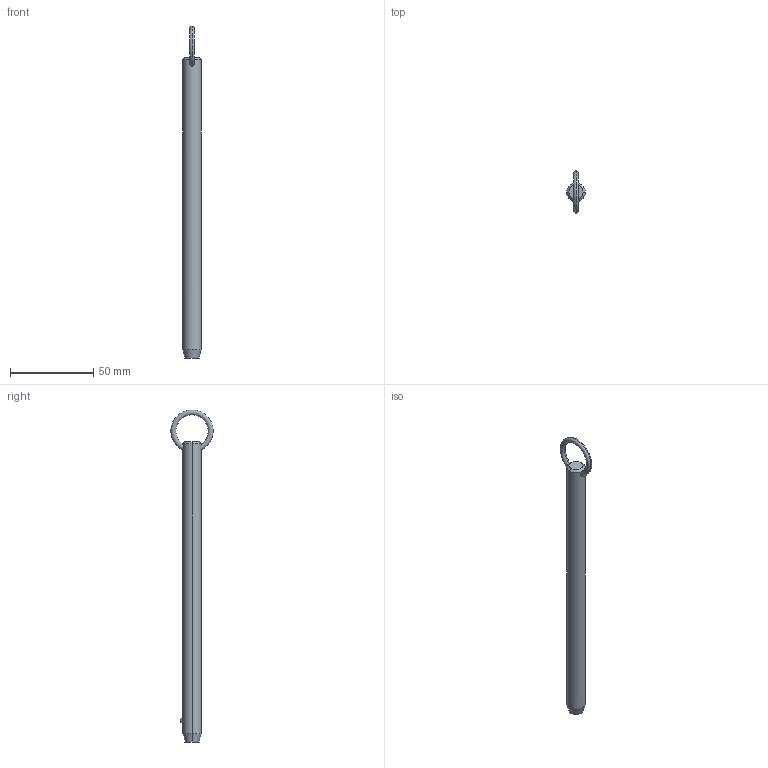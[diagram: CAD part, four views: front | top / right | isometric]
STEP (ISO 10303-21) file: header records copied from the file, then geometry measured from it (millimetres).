
FILE_DESCRIPTION (( 'STEP AP203' ), '1' );
FILE_NAME ('P1250.050-630.step', '2019-07-29T20:41:41', ( '' ), ( '' ), 'SwSTEP 2.0', 'SolidWorks 2017', '' );
FILE_SCHEMA (( 'CONFIG_CONTROL_DESIGN' ));
Length unit declared in the file: millimetre
Products named in the file (1): P1250.050-630
Bounding box: 11.1 x 25.32 x 199.55 mm (x, y, z)
Volume: 17759.2 mm3; surface area: 6950.5 mm2
Topology: 1 solids, 1 shells, 12 faces, 28 edges, 17 vertices
Faces by surface type: cone 4, torus 2, sphere 2, cylinder 2, plane 2
Entity records: 523 total; most frequent: CARTESIAN_POINT 190, DIRECTION 56, ORIENTED_EDGE 48, AXIS2_PLACEMENT_3D 25, EDGE_CURVE 24, VERTEX_POINT 15, EDGE_LOOP 15, ADVANCED_FACE 12
